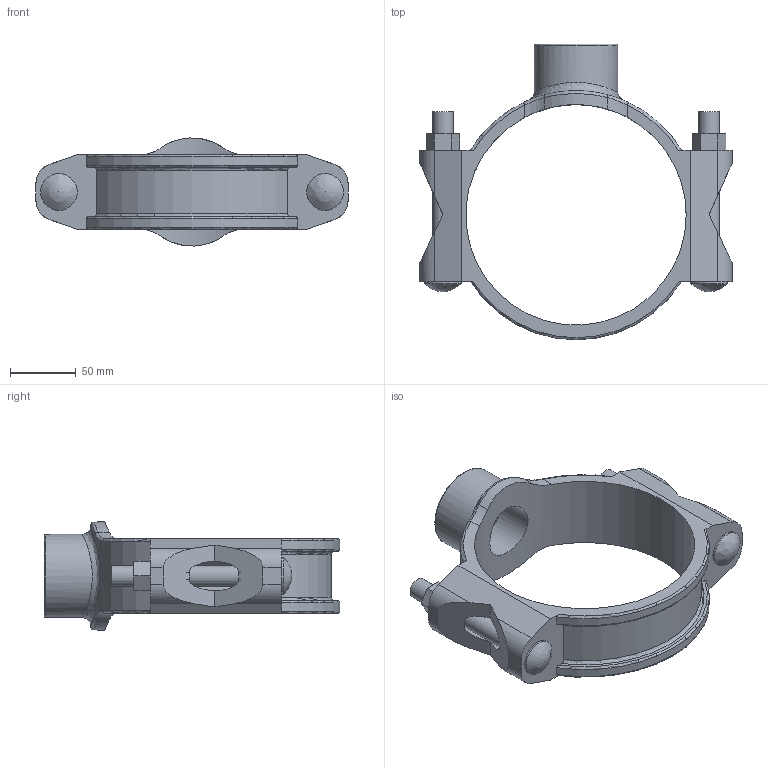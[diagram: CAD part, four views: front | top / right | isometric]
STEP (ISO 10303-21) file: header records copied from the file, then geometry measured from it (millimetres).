
FILE_DESCRIPTION(/* description */ ('VIC SS MECHANICAL T BRANCH OUTLET STYLE 422 (BSPT)','CAx-IF Rec.Pracs.---Representation and Presentation of Product Manufacturing Information (PMI)---4.0---2014-10-13'),/* implementation_level */ '2;1');
FILE_NAME(/* name */ 'C:\Files for Export\422\STEP\Victaulic_SS-OGS_Mech-Tee Out_Style 422 (BSPT)\Victaulic_SS-OGS_Mech-Tee Out_Style 422 (BSPT)_06.0x01.5 (150x40).stp',/* time_stamp */ '2023-03-28T14:27:05+02:00',/* author */ ('jheald'),/* organization */ ('Victaulic'),/* preprocessor_version */ 'ST-DEVELOPER v18.1',/* originating_system */ 'Autodesk Inventor 2020',/* authorisation */ '');
FILE_SCHEMA (('AP242_MANAGED_MODEL_BASED_3D_ENGINEERING_MIM_LF { 1 0 10303 442 1 1 4 }'));
Length unit declared in the file: inch
Products named in the file (1): 422-06.0x01.5
Bounding box: 238.25 x 225.55 x 82.47 mm (x, y, z)
Volume: 570250.4 mm3; surface area: 127700.8 mm2
Topology: 1 solids, 1 shells, 100 faces, 290 edges, 192 vertices
Faces by surface type: plane 48, cylinder 32, torus 11, bspline 9
Full cylindrical faces by diameter (mm): 15.875 x4, 27.94 x2, 41.275 x1, 48.26 x1, 63.5 x1, 168.275 x1
Entity records: 4198 total; most frequent: CARTESIAN_POINT 1330, ORIENTED_EDGE 576, DIRECTION 562, EDGE_CURVE 288, AXIS2_PLACEMENT_3D 206, VERTEX_POINT 192, LINE 150, VECTOR 150
